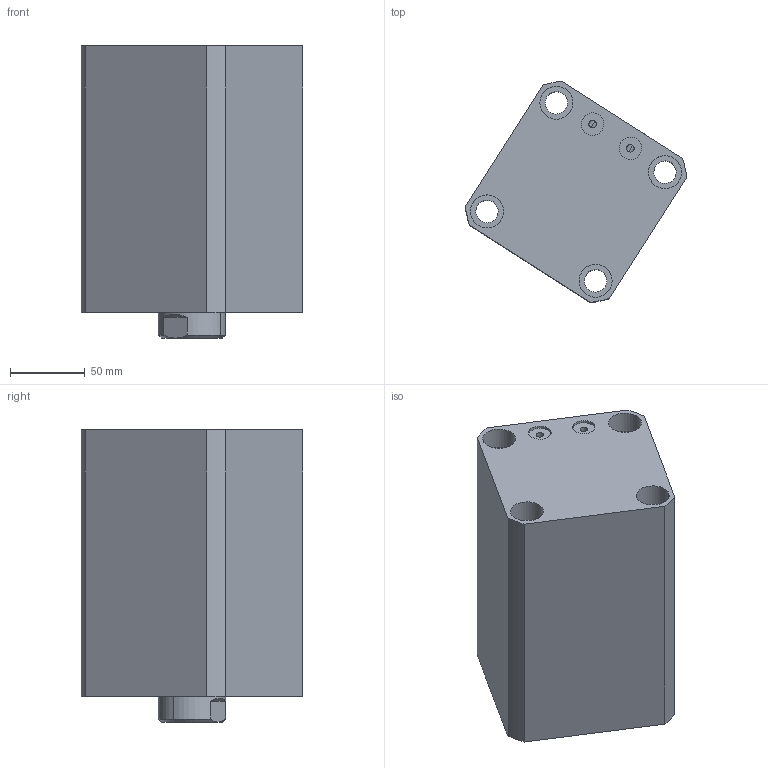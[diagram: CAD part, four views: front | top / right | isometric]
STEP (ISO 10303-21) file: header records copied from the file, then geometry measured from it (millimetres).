
FILE_DESCRIPTION (( 'STEP AP214' ), '1' );
FILE_NAME ('chtb-sdmb80x100n_asm.STEP', '2018-05-25T08:59:45', ( 'Windows' ), ( 'Microsoft' ), 'SwSTEP 2.0', 'SolidWorks 2015', '' );
FILE_SCHEMA (( 'AUTOMOTIVE_DESIGN' ));
Length unit declared in the file: millimetre
Products named in the file (4): CHTB-SDMB80X100NBT; CHTB-SD80X100NHSG; CHTB-SD80QG; chtb-sdmb80x100n_asm
Assembly tree (3 placements, depth 2):
  chtb-sdmb80x100n_asm
    CHTB-SD80QG
    CHTB-SD80X100NHSG
    CHTB-SDMB80X100NBT
Bounding box: 147.72 x 147.72 x 195 mm (x, y, z)
Volume: 1777277.7 mm3; surface area: 252985.3 mm2
Topology: 3 solids, 3 shells, 190 faces, 516 edges, 345 vertices
Faces by surface type: cylinder 107, plane 35, torus 18, cone 16, bspline 14
Entity records: 15174 total; most frequent: CARTESIAN_POINT 10467, ORIENTED_EDGE 1020, DIRECTION 879, EDGE_CURVE 510, AXIS2_PLACEMENT_3D 368, VERTEX_POINT 345, EDGE_LOOP 227, ADVANCED_FACE 190
